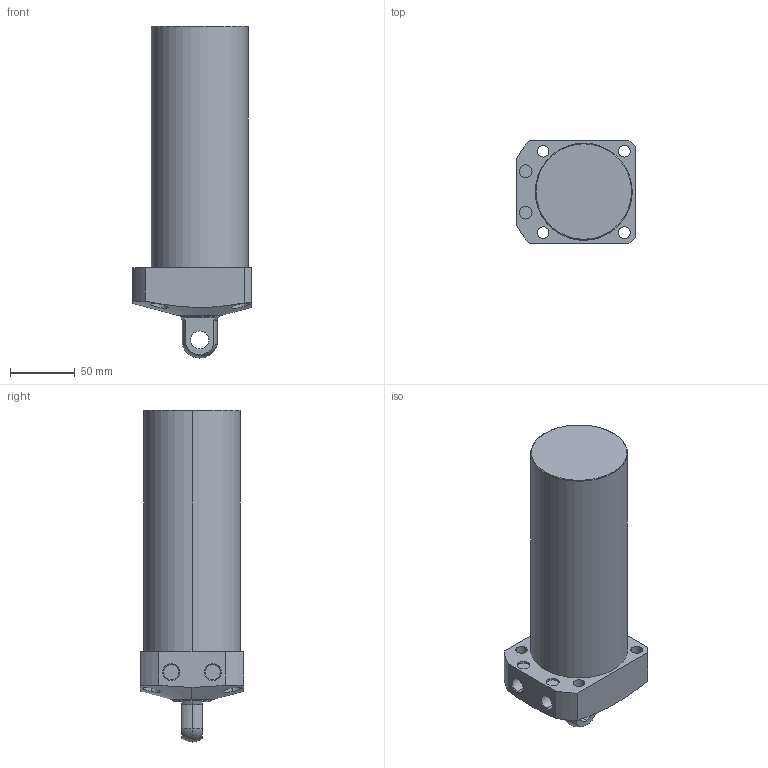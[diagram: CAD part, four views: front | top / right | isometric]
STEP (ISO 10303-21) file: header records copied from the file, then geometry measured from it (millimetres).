
FILE_DESCRIPTION (( 'STEP AP203' ), '1' );
FILE_NAME ('CLL-075CP-150.STEP', '2019-12-25T07:58:53', ( '' ), ( '' ), 'SwSTEP 2.0', 'SolidWorks 2015', '' );
FILE_SCHEMA (( 'CONFIG_CONTROL_DESIGN' ));
Length unit declared in the file: millimetre
Products named in the file (1): CLL-075CP-150
Bounding box: 92 x 80 x 257 mm (x, y, z)
Volume: 1053582.6 mm3; surface area: 75964.5 mm2
Topology: 1 solids, 1 shells, 68 faces, 159 edges, 103 vertices
Faces by surface type: cylinder 35, plane 21, cone 8, sphere 2, torus 2
Entity records: 2459 total; most frequent: CARTESIAN_POINT 762, DIRECTION 357, ORIENTED_EDGE 318, EDGE_CURVE 159, AXIS2_PLACEMENT_3D 149, VERTEX_POINT 103, EDGE_LOOP 88, CIRCLE 80
